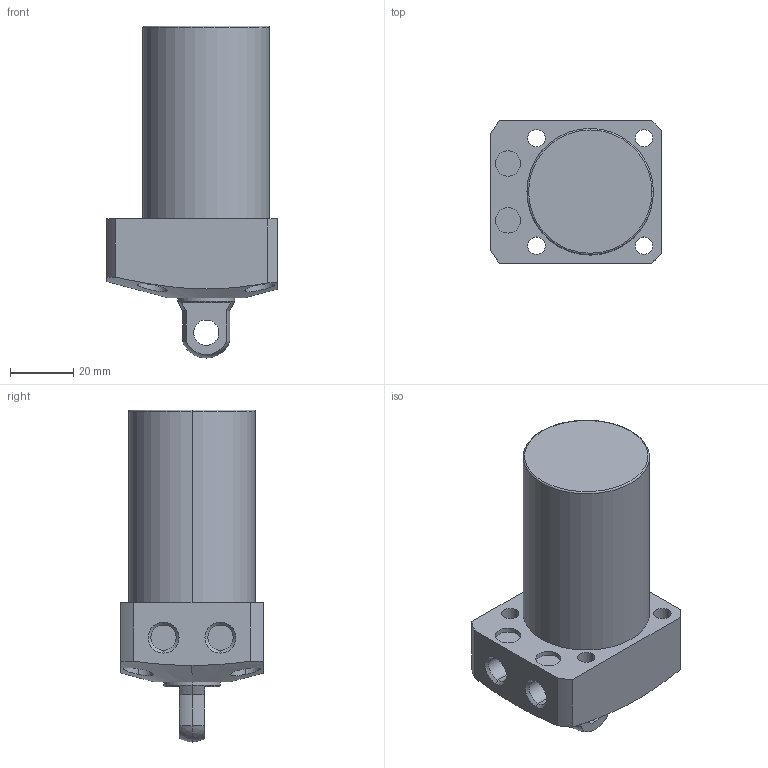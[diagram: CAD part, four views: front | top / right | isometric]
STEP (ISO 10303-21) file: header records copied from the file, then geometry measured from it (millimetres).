
FILE_DESCRIPTION (( 'STEP AP203' ), '1' );
FILE_NAME ('CLL-0400-CP-50.STEP', '2017-05-09T06:45:13', ( '' ), ( '' ), 'SwSTEP 2.0', 'SolidWorks 2015', '' );
FILE_SCHEMA (( 'CONFIG_CONTROL_DESIGN' ));
Length unit declared in the file: millimetre
Products named in the file (1): CLL-0400-CP-50
Bounding box: 54 x 45 x 105 mm (x, y, z)
Volume: 128698.3 mm3; surface area: 19594.5 mm2
Topology: 1 solids, 1 shells, 68 faces, 159 edges, 103 vertices
Faces by surface type: cylinder 35, plane 21, cone 8, sphere 2, torus 2
Entity records: 2379 total; most frequent: CARTESIAN_POINT 682, DIRECTION 357, ORIENTED_EDGE 318, EDGE_CURVE 159, AXIS2_PLACEMENT_3D 149, VERTEX_POINT 103, EDGE_LOOP 88, CIRCLE 80
